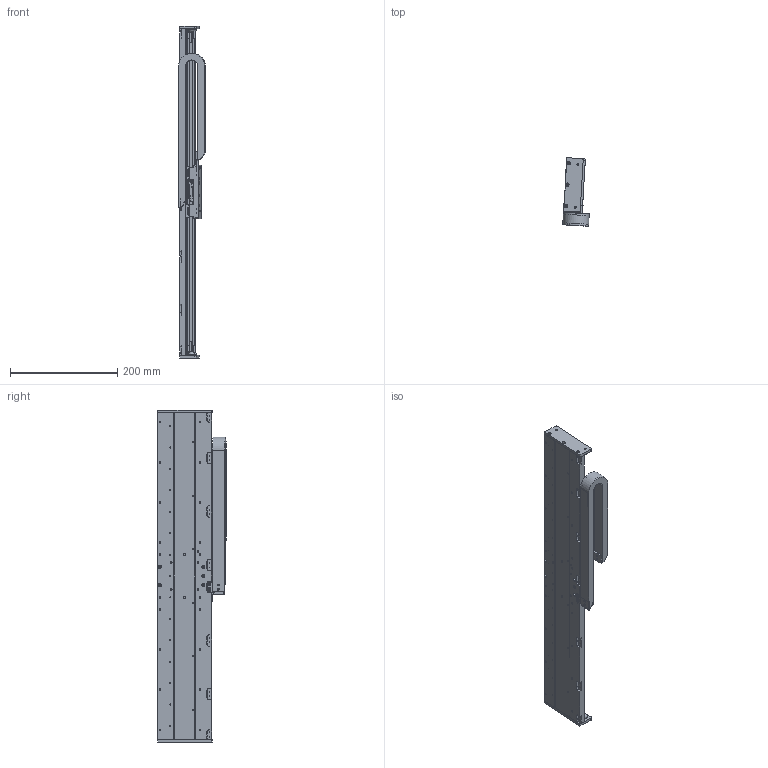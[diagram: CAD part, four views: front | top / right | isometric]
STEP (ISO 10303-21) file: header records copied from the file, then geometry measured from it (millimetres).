
FILE_DESCRIPTION(/* description */ (''),/* implementation_level */ '2;1');
FILE_NAME(/* name */ 'I:\FY15 Projects\MSR\MSR100\Web Step Models\mSR100L-500XLSXXXXXXCM13.stp',/* time_stamp */ '2015-02-18T13:21:55-05:00',/* author */ ('BF20108'),/* organization */ (''),/* preprocessor_version */ 'ST-DEVELOPER v15.2',/* originating_system */ 'Autodesk Inventor 2014',/* authorisation */ '');
FILE_SCHEMA (('AUTOMOTIVE_DESIGN { 1 0 10303 214 3 1 1 }'));
Products named in the file (17): 102-5710-11; 003-3562-43; 102-5702-10; ml18-120m-n; 102-5703-01; 102-5705-01; 002-3740-11; 102-5701; 003-3561; ML18-3E; 003-5000; 002-3740-short-carriage-assy; mx100-mcb; mx100-scb; e045-16-018-carrier-07; 002-3740-cbl-carr-sc-07; 002-3740
Bounding box: 49.52 x 127.66 x 620 mm (x, y, z)
Volume: 983013.1 mm3; surface area: 462949.5 mm2
Topology: 26 solids, 27 shells, 3370 faces, 9009 edges, 5757 vertices
Faces by surface type: plane 1570, cylinder 1309, torus 240, cone 239, bspline 8, sphere 4
Full cylindrical faces by diameter (mm): 0.5 x8, 1 x4, 1.567 x119, 1.588 x2, 2.007 x12, 2.013 x19, 2.135 x4, 2.4 x82, 2.459 x24, 2.5 x20, 2.642 x4, 2.75 x1, 3 x29, 3.242 x15, 3.4 x36, 3.505 x4, 4 x4, 4.17 x2, 4.2 x83, 4.5 x18, 5 x8, 5.08 x2, 6 x40, 11.176 x4
Entity records: 56659 total; most frequent: CARTESIAN_POINT 10643, DIRECTION 9519, ORIENTED_EDGE 8658, EDGE_CURVE 4313, AXIS2_PLACEMENT_3D 3427, VERTEX_POINT 3091, EDGE_LOOP 2913, LINE 2665
